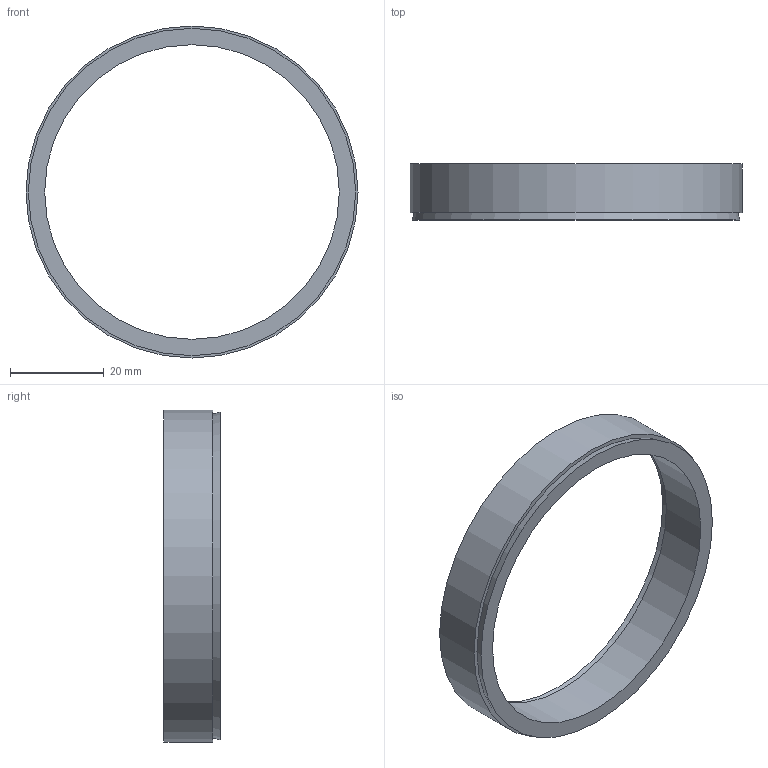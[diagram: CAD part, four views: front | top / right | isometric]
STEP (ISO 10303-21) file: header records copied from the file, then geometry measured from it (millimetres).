
FILE_DESCRIPTION( ( 'Unknown' ), '1' );
FILE_NAME( 'C:/Dokumente und Einstellungen/Sven/Desktop/homepage/cad - homepage/KBS50/KBS 50 - 63 x 71.stp', 'Unknown', ( 'Unknown' ), ( 'Unknown' ), 'XStep 1.0', 'Unknown', ' ' );
FILE_SCHEMA( ( 'automotive_design' ) );
Length unit declared in the file: millimetre
Products named in the file (1): 1
Bounding box: 71 x 12 x 71 mm (x, y, z)
Volume: 9631.9 mm3; surface area: 6924.7 mm2
Topology: 1 solids, 1 shells, 8 faces, 12 edges, 8 vertices
Faces by surface type: plane 4, cylinder 2, cone 2
Full cylindrical faces by diameter (mm): 63 x1, 71 x1
Entity records: 248 total; most frequent: DIRECTION 34, CARTESIAN_POINT 25, AXIS2_PLACEMENT_3D 17, EDGE_LOOP 16, ORIENTED_EDGE 16, FACE_OUTER_BOUND 10, STYLED_ITEM 8, PRESENTATION_STYLE_ASSIGNMENT 8
